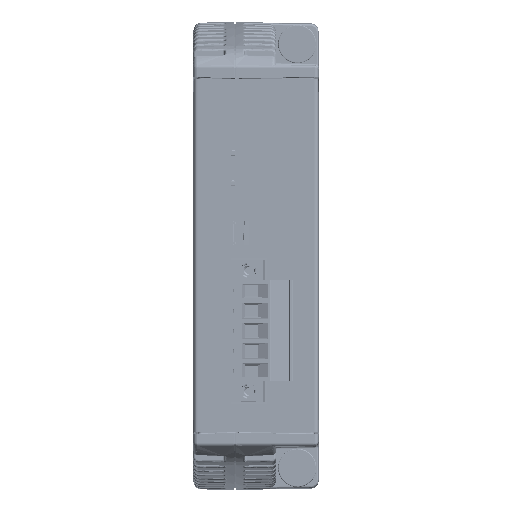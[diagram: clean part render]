
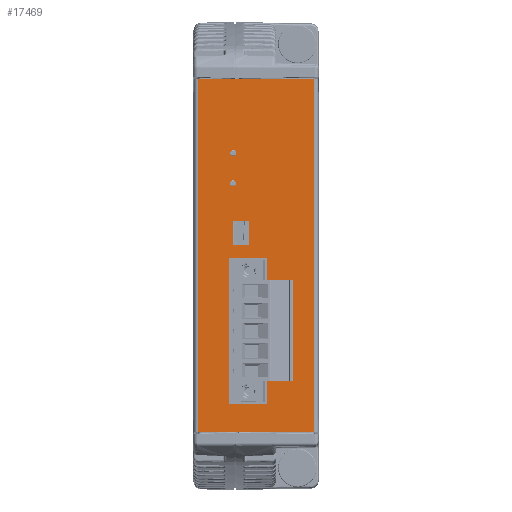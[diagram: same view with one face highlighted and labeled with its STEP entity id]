
A CAD part, top view. The second image highlights one B-rep face of the part: STEP entity #17469.
In plain terms, the highlighted planar face has unit normal (0, 0, 1).
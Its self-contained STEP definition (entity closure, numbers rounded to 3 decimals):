
#2295 = DIRECTION ( 'NONE',  ( 1., 0., 0. ) ) ;
#5077 = VERTEX_POINT ( 'NONE', #177072 ) ;
#5469 = CARTESIAN_POINT ( 'NONE',  ( 2.035, 18.196, 28.4 ) ) ;
#6189 = EDGE_CURVE ( 'NONE', #25320, #65634, #74935, .T. ) ;
#7100 = PLANE ( 'NONE',  #163096 ) ;
#7571 = LINE ( 'NONE', #22082, #89889 ) ;
#7791 = DIRECTION ( 'NONE',  ( 0., 1., 0. ) ) ;
#8139 = VERTEX_POINT ( 'NONE', #181196 ) ;
#8496 = CIRCLE ( 'NONE', #147430, 0.75 ) ;
#11343 = CARTESIAN_POINT ( 'NONE',  ( 1.285, 18.196, 28.4 ) ) ;
#11981 = VECTOR ( 'NONE', #69389, 1000. ) ;
#13027 = VECTOR ( 'NONE', #180866, 1000. ) ;
#13653 = VERTEX_POINT ( 'NONE', #5469 ) ;
#13882 = CARTESIAN_POINT ( 'NONE',  ( 9.87, -37.245, 28.4 ) ) ;
#16226 = CARTESIAN_POINT ( 'NONE',  ( -7.672, -44.498, 28.4 ) ) ;
#17469 = ADVANCED_FACE ( 'NONE', ( #185054, #25664, #189926, #148806, #35345 ), #7100, .F. ) ;
#17893 = VECTOR ( 'NONE', #42930, 1000. ) ;
#18013 = LINE ( 'NONE', #94967, #100235 ) ;
#18482 = CIRCLE ( 'NONE', #119769, 0.75 ) ;
#18657 = CARTESIAN_POINT ( 'NONE',  ( 9.87, -0.685, 28.4 ) ) ;
#19029 = CIRCLE ( 'NONE', #177485, 0.75 ) ;
#21094 = DIRECTION ( 'NONE',  ( 1., 0., 0. ) ) ;
#21963 = ORIENTED_EDGE ( 'NONE', *, *, #171011, .F. ) ;
#22082 = CARTESIAN_POINT ( 'NONE',  ( -8.702, 44.498, 28.4 ) ) ;
#22128 = AXIS2_PLACEMENT_3D ( 'NONE', #48227, #156256, #63875 ) ;
#25320 = VERTEX_POINT ( 'NONE', #83380 ) ;
#25664 = FACE_BOUND ( 'NONE', #131640, .T. ) ;
#26907 = DIRECTION ( 'NONE',  ( 1., 0., 0. ) ) ;
#32089 = EDGE_LOOP ( 'NONE', ( #151059, #51633, #108062, #94211 ) ) ;
#32444 = CARTESIAN_POINT ( 'NONE',  ( 1.27, 2.77, 28.4 ) ) ;
#33424 = DIRECTION ( 'NONE',  ( 0., 1., 0. ) ) ;
#35345 = FACE_OUTER_BOUND ( 'NONE', #77042, .T. ) ;
#36844 = CARTESIAN_POINT ( 'NONE',  ( 5.27, 2.77, 28.4 ) ) ;
#38614 = ORIENTED_EDGE ( 'NONE', *, *, #79971, .F. ) ;
#40295 = DIRECTION ( 'NONE',  ( 0., -1., 0. ) ) ;
#40368 = LINE ( 'NONE', #18657, #194976 ) ;
#42141 = VECTOR ( 'NONE', #21094, 1000. ) ;
#42930 = DIRECTION ( 'NONE',  ( 1., 0., 0. ) ) ;
#44037 = CARTESIAN_POINT ( 'NONE',  ( 1.27, 8.77, 28.4 ) ) ;
#44319 = VERTEX_POINT ( 'NONE', #80875 ) ;
#45432 = CARTESIAN_POINT ( 'NONE',  ( 5.27, 8.77, 28.4 ) ) ;
#46760 = ORIENTED_EDGE ( 'NONE', *, *, #55377, .T. ) ;
#47133 = VERTEX_POINT ( 'NONE', #79567 ) ;
#48227 = CARTESIAN_POINT ( 'NONE',  ( 1.285, 25.816, 28.4 ) ) ;
#50373 = VERTEX_POINT ( 'NONE', #56838 ) ;
#51633 = ORIENTED_EDGE ( 'NONE', *, *, #117450, .F. ) ;
#53099 = LINE ( 'NONE', #53828, #11981 ) ;
#53464 = CARTESIAN_POINT ( 'NONE',  ( 1.27, 8.77, 28.4 ) ) ;
#53828 = CARTESIAN_POINT ( 'NONE',  ( 0.27, -0.685, 28.4 ) ) ;
#55377 = EDGE_CURVE ( 'NONE', #47133, #147617, #183927, .T. ) ;
#56838 = CARTESIAN_POINT ( 'NONE',  ( 0.27, -0.685, 28.4 ) ) ;
#59038 = LINE ( 'NONE', #103816, #17893 ) ;
#60195 = DIRECTION ( 'NONE',  ( 0., 0., 1. ) ) ;
#63875 = DIRECTION ( 'NONE',  ( 1., 0., 0. ) ) ;
#65634 = VERTEX_POINT ( 'NONE', #32444 ) ;
#69389 = DIRECTION ( 'NONE',  ( -1., 0., 0. ) ) ;
#72970 = CARTESIAN_POINT ( 'NONE',  ( 5.27, 8.77, 28.4 ) ) ;
#74935 = LINE ( 'NONE', #44037, #193212 ) ;
#76908 = CIRCLE ( 'NONE', #22128, 0.75 ) ;
#77042 = EDGE_LOOP ( 'NONE', ( #100159, #120661, #168997, #46760 ) ) ;
#79567 = CARTESIAN_POINT ( 'NONE',  ( 21.772, -44.498, 28.4 ) ) ;
#79731 = EDGE_CURVE ( 'NONE', #199593, #47133, #83283, .T. ) ;
#79971 = EDGE_CURVE ( 'NONE', #8139, #184299, #59038, .T. ) ;
#80875 = CARTESIAN_POINT ( 'NONE',  ( 9.87, -0.685, 28.4 ) ) ;
#82592 = CARTESIAN_POINT ( 'NONE',  ( -8.702, -44.498, 28.4 ) ) ;
#83283 = LINE ( 'NONE', #82592, #42141 ) ;
#83380 = CARTESIAN_POINT ( 'NONE',  ( 1.27, 8.77, 28.4 ) ) ;
#84092 = CARTESIAN_POINT ( 'NONE',  ( 1.285, 18.196, 28.4 ) ) ;
#84564 = LINE ( 'NONE', #132809, #176249 ) ;
#86351 = EDGE_CURVE ( 'NONE', #5077, #13653, #8496, .T. ) ;
#86841 = EDGE_CURVE ( 'NONE', #160682, #150958, #76908, .T. ) ;
#89889 = VECTOR ( 'NONE', #130107, 1000. ) ;
#94211 = ORIENTED_EDGE ( 'NONE', *, *, #6189, .F. ) ;
#94954 = CARTESIAN_POINT ( 'NONE',  ( 21.772, 44.998, 28.4 ) ) ;
#94967 = CARTESIAN_POINT ( 'NONE',  ( 1.27, 2.77, 28.4 ) ) ;
#95020 = CARTESIAN_POINT ( 'NONE',  ( 2.035, 25.816, 28.4 ) ) ;
#95482 = EDGE_CURVE ( 'NONE', #65634, #102642, #18013, .T. ) ;
#96517 = DIRECTION ( 'NONE',  ( 0., -1., 0. ) ) ;
#98885 = VECTOR ( 'NONE', #96517, 1000. ) ;
#99611 = DIRECTION ( 'NONE',  ( 1., 0., 0. ) ) ;
#100114 = DIRECTION ( 'NONE',  ( -1., 0., 0. ) ) ;
#100159 = ORIENTED_EDGE ( 'NONE', *, *, #165807, .F. ) ;
#100235 = VECTOR ( 'NONE', #2295, 1000. ) ;
#100440 = DIRECTION ( 'NONE',  ( 0., 0., -1. ) ) ;
#102642 = VERTEX_POINT ( 'NONE', #36844 ) ;
#103816 = CARTESIAN_POINT ( 'NONE',  ( 0.27, -37.245, 28.4 ) ) ;
#104388 = EDGE_CURVE ( 'NONE', #13653, #5077, #18482, .T. ) ;
#106237 = DIRECTION ( 'NONE',  ( 0., -1., 0. ) ) ;
#107725 = VERTEX_POINT ( 'NONE', #137797 ) ;
#108062 = ORIENTED_EDGE ( 'NONE', *, *, #95482, .F. ) ;
#117450 = EDGE_CURVE ( 'NONE', #102642, #183310, #182135, .T. ) ;
#119520 = DIRECTION ( 'NONE',  ( 0., 0., 1. ) ) ;
#119769 = AXIS2_PLACEMENT_3D ( 'NONE', #11343, #119520, #26907 ) ;
#120661 = ORIENTED_EDGE ( 'NONE', *, *, #148493, .T. ) ;
#126854 = ORIENTED_EDGE ( 'NONE', *, *, #104388, .F. ) ;
#130107 = DIRECTION ( 'NONE',  ( 1., 0., 0. ) ) ;
#131640 = EDGE_LOOP ( 'NONE', ( #126854, #189886 ) ) ;
#131999 = CARTESIAN_POINT ( 'NONE',  ( 21.772, 44.498, 28.4 ) ) ;
#132809 = CARTESIAN_POINT ( 'NONE',  ( 0.27, -0.685, 28.4 ) ) ;
#137797 = CARTESIAN_POINT ( 'NONE',  ( -7.672, 44.498, 28.4 ) ) ;
#139819 = LINE ( 'NONE', #157156, #98885 ) ;
#142121 = DIRECTION ( 'NONE',  ( 0., 1., 0. ) ) ;
#142849 = VECTOR ( 'NONE', #33424, 1000. ) ;
#144127 = VECTOR ( 'NONE', #100114, 1000. ) ;
#147430 = AXIS2_PLACEMENT_3D ( 'NONE', #84092, #192010, #99611 ) ;
#147617 = VERTEX_POINT ( 'NONE', #131999 ) ;
#148493 = EDGE_CURVE ( 'NONE', #107725, #199593, #139819, .T. ) ;
#148806 = FACE_BOUND ( 'NONE', #164226, .T. ) ;
#150958 = VERTEX_POINT ( 'NONE', #95020 ) ;
#151059 = ORIENTED_EDGE ( 'NONE', *, *, #162498, .F. ) ;
#152291 = ORIENTED_EDGE ( 'NONE', *, *, #192539, .F. ) ;
#152576 = CARTESIAN_POINT ( 'NONE',  ( 1.285, 25.816, 28.4 ) ) ;
#153258 = ORIENTED_EDGE ( 'NONE', *, *, #86841, .F. ) ;
#156256 = DIRECTION ( 'NONE',  ( 0., 0., 1. ) ) ;
#157156 = CARTESIAN_POINT ( 'NONE',  ( -7.672, -44.998, 28.4 ) ) ;
#159970 = EDGE_CURVE ( 'NONE', #184299, #44319, #40368, .T. ) ;
#160682 = VERTEX_POINT ( 'NONE', #168506 ) ;
#162069 = EDGE_LOOP ( 'NONE', ( #21963, #153258 ) ) ;
#162498 = EDGE_CURVE ( 'NONE', #183310, #25320, #190128, .T. ) ;
#163096 = AXIS2_PLACEMENT_3D ( 'NONE', #192833, #100440, #7791 ) ;
#164226 = EDGE_LOOP ( 'NONE', ( #184683, #152291, #172272, #38614 ) ) ;
#165807 = EDGE_CURVE ( 'NONE', #107725, #147617, #7571, .T. ) ;
#168134 = DIRECTION ( 'NONE',  ( 1., 0., 0. ) ) ;
#168506 = CARTESIAN_POINT ( 'NONE',  ( 0.535, 25.816, 28.4 ) ) ;
#168997 = ORIENTED_EDGE ( 'NONE', *, *, #79731, .T. ) ;
#171011 = EDGE_CURVE ( 'NONE', #150958, #160682, #19029, .T. ) ;
#172272 = ORIENTED_EDGE ( 'NONE', *, *, #159970, .F. ) ;
#176249 = VECTOR ( 'NONE', #40295, 1000. ) ;
#177072 = CARTESIAN_POINT ( 'NONE',  ( 0.535, 18.196, 28.4 ) ) ;
#177485 = AXIS2_PLACEMENT_3D ( 'NONE', #152576, #60195, #168134 ) ;
#180866 = DIRECTION ( 'NONE',  ( 0., 1., 0. ) ) ;
#181196 = CARTESIAN_POINT ( 'NONE',  ( 0.27, -37.245, 28.4 ) ) ;
#182135 = LINE ( 'NONE', #72970, #13027 ) ;
#183310 = VERTEX_POINT ( 'NONE', #45432 ) ;
#183927 = LINE ( 'NONE', #94954, #142849 ) ;
#184299 = VERTEX_POINT ( 'NONE', #13882 ) ;
#184683 = ORIENTED_EDGE ( 'NONE', *, *, #192577, .F. ) ;
#185054 = FACE_BOUND ( 'NONE', #162069, .T. ) ;
#189886 = ORIENTED_EDGE ( 'NONE', *, *, #86351, .F. ) ;
#189926 = FACE_BOUND ( 'NONE', #32089, .T. ) ;
#190128 = LINE ( 'NONE', #53464, #144127 ) ;
#192010 = DIRECTION ( 'NONE',  ( 0., 0., 1. ) ) ;
#192539 = EDGE_CURVE ( 'NONE', #44319, #50373, #53099, .T. ) ;
#192577 = EDGE_CURVE ( 'NONE', #50373, #8139, #84564, .T. ) ;
#192833 = CARTESIAN_POINT ( 'NONE',  ( -8.702, 44.998, 28.4 ) ) ;
#193212 = VECTOR ( 'NONE', #106237, 1000. ) ;
#194976 = VECTOR ( 'NONE', #142121, 1000. ) ;
#199593 = VERTEX_POINT ( 'NONE', #16226 ) ;
